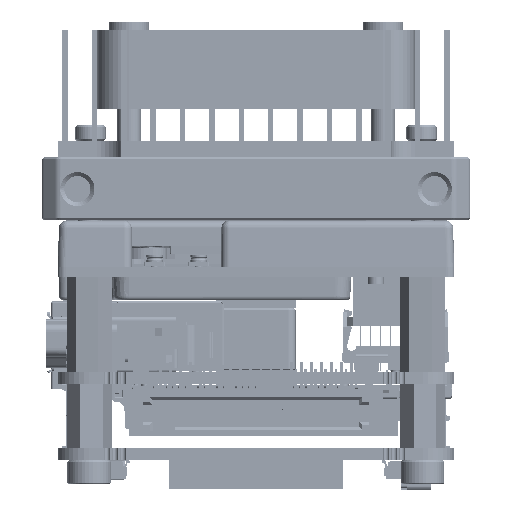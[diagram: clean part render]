
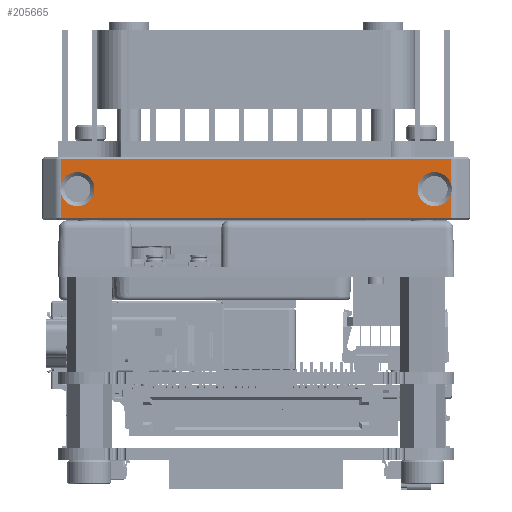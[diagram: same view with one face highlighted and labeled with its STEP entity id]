
A CAD part, left-side view. The second image highlights one B-rep face of the part: STEP entity #205665.
In plain terms, the highlighted planar face has unit normal (-1, 0, 0) as drawn and (1, 0, 0) by its records, which use the part's own axes.
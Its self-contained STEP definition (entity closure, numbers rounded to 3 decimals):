
#49704=CIRCLE('',#986566,2.15);
#49705=CIRCLE('',#986567,2.15);
#205665=ADVANCED_FACE('',(#274242),#235814,.T.);
#235814=PLANE('',#986568);
#274242=FACE_OUTER_BOUND('',#315642,.T.);
#315642=EDGE_LOOP('',(#729516,#729517,#729518,#729519,#729520,#729521,#729522,
#729523));
#409213=LINE('',#1485308,#502993);
#409214=LINE('',#1485313,#502994);
#409215=LINE('',#1485315,#502995);
#409216=LINE('',#1485317,#502996);
#409217=LINE('',#1485321,#502997);
#409218=LINE('',#1485323,#502998);
#502993=VECTOR('',#1191184,1.);
#502994=VECTOR('',#1191187,1.);
#502995=VECTOR('',#1191188,1.);
#502996=VECTOR('',#1191189,1.);
#502997=VECTOR('',#1191192,1.);
#502998=VECTOR('',#1191193,1.);
#729516=ORIENTED_EDGE('',*,*,#924927,.T.);
#729517=ORIENTED_EDGE('',*,*,#924928,.T.);
#729518=ORIENTED_EDGE('',*,*,#924929,.T.);
#729519=ORIENTED_EDGE('',*,*,#924930,.T.);
#729520=ORIENTED_EDGE('',*,*,#924931,.T.);
#729521=ORIENTED_EDGE('',*,*,#924932,.T.);
#729522=ORIENTED_EDGE('',*,*,#924933,.T.);
#729523=ORIENTED_EDGE('',*,*,#924934,.T.);
#809660=VERTEX_POINT('',#1485309);
#809661=VERTEX_POINT('',#1485310);
#809662=VERTEX_POINT('',#1485312);
#809663=VERTEX_POINT('',#1485314);
#809664=VERTEX_POINT('',#1485316);
#809665=VERTEX_POINT('',#1485318);
#809666=VERTEX_POINT('',#1485320);
#809667=VERTEX_POINT('',#1485322);
#924927=EDGE_CURVE('',#809660,#809661,#409213,.T.);
#924928=EDGE_CURVE('',#809661,#809662,#49704,.T.);
#924929=EDGE_CURVE('',#809662,#809663,#409214,.T.);
#924930=EDGE_CURVE('',#809663,#809664,#409215,.T.);
#924931=EDGE_CURVE('',#809664,#809665,#409216,.T.);
#924932=EDGE_CURVE('',#809665,#809666,#49705,.T.);
#924933=EDGE_CURVE('',#809666,#809667,#409217,.T.);
#924934=EDGE_CURVE('',#809667,#809660,#409218,.T.);
#986566=AXIS2_PLACEMENT_3D('',#1485311,#1191185,#1191186);
#986567=AXIS2_PLACEMENT_3D('',#1485319,#1191190,#1191191);
#986568=AXIS2_PLACEMENT_3D('',#1485324,#1191194,#1191195);
#1191184=DIRECTION('',(0.,0.,-1.));
#1191185=DIRECTION('',(-1.,0.,0.));
#1191186=DIRECTION('',(0.,0.,-1.));
#1191187=DIRECTION('',(0.,0.,-1.));
#1191188=DIRECTION('',(0.,1.,0.));
#1191189=DIRECTION('',(0.,0.,1.));
#1191190=DIRECTION('',(-1.,0.,0.));
#1191191=DIRECTION('',(0.,0.,-1.));
#1191192=DIRECTION('',(0.,0.,1.));
#1191193=DIRECTION('',(0.,-1.,0.));
#1191194=DIRECTION('',(1.,0.,0.));
#1191195=DIRECTION('',(0.,0.,-1.));
#1485308=CARTESIAN_POINT('',(46.5,-24.586,0.));
#1485309=CARTESIAN_POINT('',(46.5,-24.586,7.7));
#1485310=CARTESIAN_POINT('',(46.5,-24.586,4.572));
#1485311=CARTESIAN_POINT('',(46.5,-22.5,4.05));
#1485312=CARTESIAN_POINT('',(46.5,-24.586,3.528));
#1485313=CARTESIAN_POINT('',(46.5,-24.586,0.));
#1485314=CARTESIAN_POINT('',(46.5,-24.586,0.3));
#1485315=CARTESIAN_POINT('',(46.5,24.586,0.3));
#1485316=CARTESIAN_POINT('',(46.5,24.586,0.3));
#1485317=CARTESIAN_POINT('',(46.5,24.586,0.));
#1485318=CARTESIAN_POINT('',(46.5,24.586,3.528));
#1485319=CARTESIAN_POINT('',(46.5,22.5,4.05));
#1485320=CARTESIAN_POINT('',(46.5,24.586,4.572));
#1485321=CARTESIAN_POINT('',(46.5,24.586,0.));
#1485322=CARTESIAN_POINT('',(46.5,24.586,7.7));
#1485323=CARTESIAN_POINT('',(46.5,-27.,7.7));
#1485324=CARTESIAN_POINT('',(46.5,-27.,0.));
